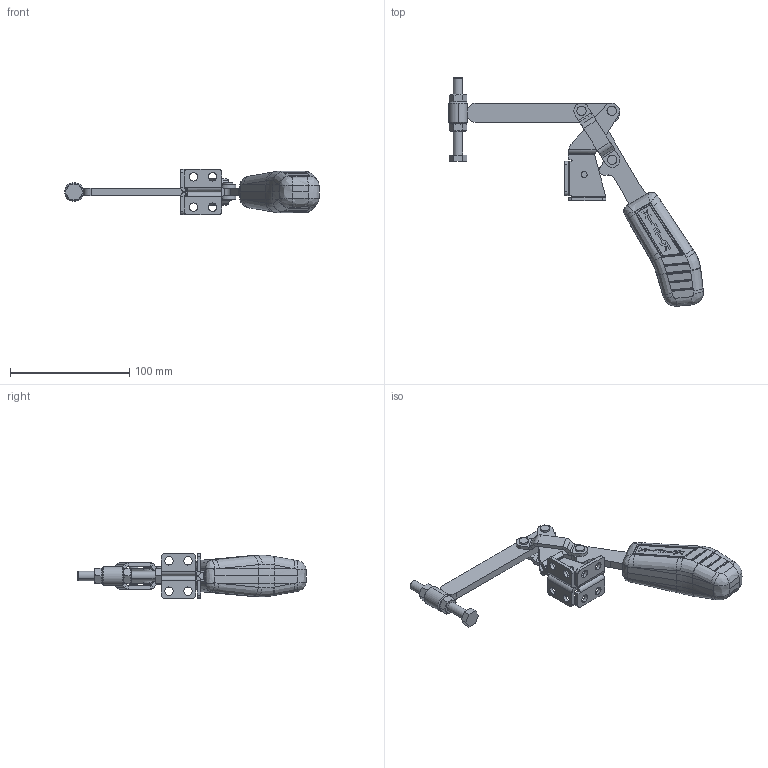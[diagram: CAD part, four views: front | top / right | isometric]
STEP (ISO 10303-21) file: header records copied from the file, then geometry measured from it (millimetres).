
FILE_DESCRIPTION (( 'STEP AP203' ), '1' );
FILE_NAME ('KF-718 DS.STEP', '2014-08-01T14:15:32', ( 'Ricardo' ), ( '' ), 'SwSTEP 2.0', 'SolidWorks 2013', '' );
FILE_SCHEMA (( 'CONFIG_CONTROL_DESIGN' ));
Length unit declared in the file: millimetre
Products named in the file (13): 08.10065; 07.60002; 20.20004; 02.12099_Direita; 12.50020; 02.12099_Esquerda; 11.50002; 03.15020; PSB-M8; 06.50023; KF-718 DS; 06.50048; 01.10180
Assembly tree (17 placements, depth 3):
  KF-718 DS
    02.12099_Direita
    02.12099_Esquerda
    03.15020
    06.50023  x4
    06.50048
    01.10180
    08.10065  x2
    07.60002
    PSB-M8
      20.20004
      12.50020
      11.50002  x2
Bounding box: 214.06 x 192.13 x 38 mm (x, y, z)
Volume: 139203.1 mm3; surface area: 53148.2 mm2
Topology: 16 solids, 16 shells, 755 faces, 1856 edges, 1143 vertices
Faces by surface type: plane 295, cylinder 200, bspline 167, sphere 52, cone 38, torus 3
Entity records: 25377 total; most frequent: CARTESIAN_POINT 9500, ORIENTED_EDGE 3272, DIRECTION 2569, EDGE_CURVE 1636, VERTEX_POINT 1020, AXIS2_PLACEMENT_3D 962, EDGE_LOOP 730, FACE_OUTER_BOUND 662
